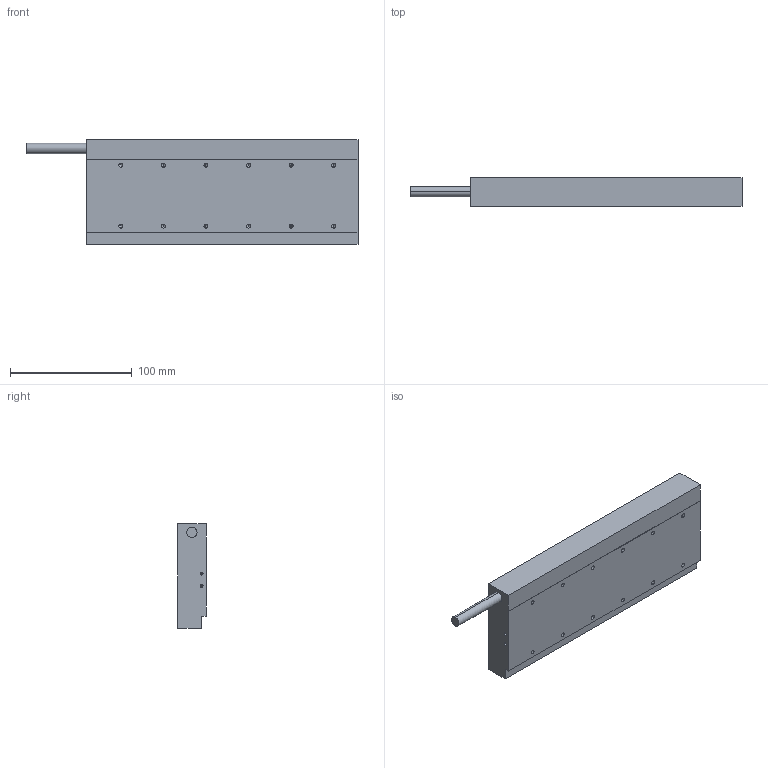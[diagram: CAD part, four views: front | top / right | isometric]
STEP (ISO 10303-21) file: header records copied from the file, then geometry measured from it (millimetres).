
FILE_DESCRIPTION (( 'STEP AP214' ), '1' );
FILE_NAME ('雄赽MK22.STEP', '2025-09-05T08:59:24', ( '' ), ( '' ), 'SwSTEP 2.0', 'SolidWorks 2016', '' );
FILE_SCHEMA (( 'AUTOMOTIVE_DESIGN' ));
Length unit declared in the file: millimetre
Products named in the file (1): 雄赽MK22
Bounding box: 273 x 23.7 x 86 mm (x, y, z)
Volume: 446996.4 mm3; surface area: 55134.4 mm2
Topology: 1 solids, 1 shells, 69 faces, 170 edges, 90 vertices
Faces by surface type: cylinder 30, cone 28, plane 11
Entity records: 2243 total; most frequent: DIRECTION 342, CARTESIAN_POINT 302, ORIENTED_EDGE 284, EDGE_CURVE 142, AXIS2_PLACEMENT_3D 130, VERTEX_POINT 90, EDGE_LOOP 84, VECTOR 82
